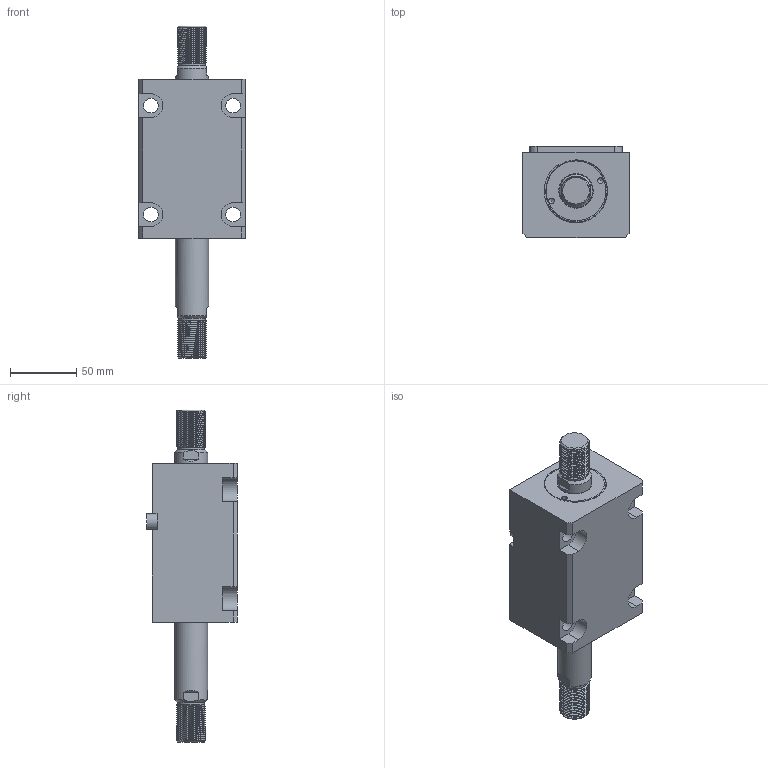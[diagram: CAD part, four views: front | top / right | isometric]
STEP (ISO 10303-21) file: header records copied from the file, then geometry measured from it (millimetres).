
FILE_DESCRIPTION(/* description */ (''),/* implementation_level */ '2;1');
FILE_NAME(/* name */ 'CHTB-lwm40x50w.stp',/* time_stamp */ '2022-04-29T17:37:53+08:00',/* author */ (''),/* organization */ (''),/* preprocessor_version */ 'ST-DEVELOPER v16.7',/* originating_system */ 'SIEMENS PLM Software NX 12.0',/* authorisation */ '');
FILE_SCHEMA (('AUTOMOTIVE_DESIGN { 1 0 10303 214 3 1 1 1 }'));
Length unit declared in the file: millimetre
Products named in the file (1): CHTB-lwm40x50w
Bounding box: 80 x 68.5 x 250 mm (x, y, z)
Volume: 597741.7 mm3; surface area: 104920.5 mm2
Topology: 4 solids, 4 shells, 522 faces, 1573 edges, 1099 vertices
Faces by surface type: plane 356, extrusion 96, cylinder 43, torus 10, bspline 10, cone 7
Full cylindrical faces by diameter (mm): 4.2 x2, 5 x2, 11 x4, 12 x2, 20 x2, 25 x4, 29 x1, 34 x2, 40 x4, 45 x1
Entity records: 28193 total; most frequent: CARTESIAN_POINT 12234, ORIENTED_EDGE 3016, DIRECTION 2146, EDGE_CURVE 1508, VECTOR 1114, VERTEX_POINT 1079, LINE 1018, EDGE_LOOP 621
